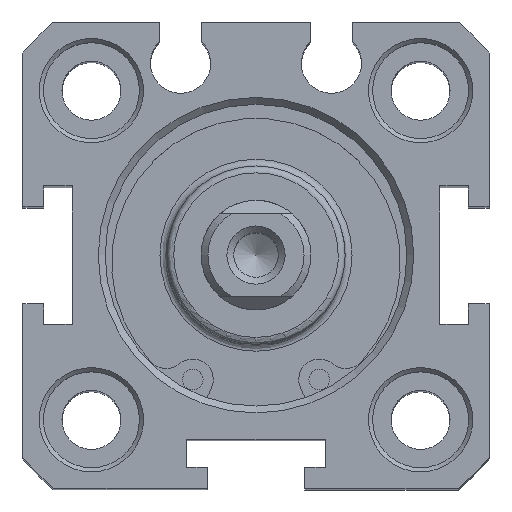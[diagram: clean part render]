
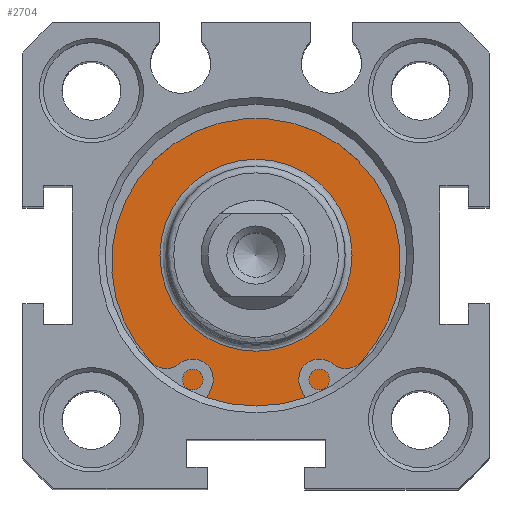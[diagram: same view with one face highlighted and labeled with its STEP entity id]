
A CAD part, top view. The second image highlights one B-rep face of the part: STEP entity #2704.
In plain terms, the highlighted planar face has unit normal (0, 0, 1).
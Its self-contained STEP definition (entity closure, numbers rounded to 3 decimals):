
#2653=CARTESIAN_POINT('',(0.24,8.683,66.8));
#2654=VERTEX_POINT('',#2653);
#2655=CARTESIAN_POINT('',(0.24,1.683,66.8));
#2656=DIRECTION('',(0.0,0.0,1.0));
#2657=DIRECTION('',(0.0,-1.0,0.0));
#2658=AXIS2_PLACEMENT_3D('',#2655,#2656,#2657);
#2659=CIRCLE('',#2658,7.);
#2660=EDGE_CURVE('',#2654,#2654,#2659,.T.);
#2685=CARTESIAN_POINT('',(0.24,10.433,66.8));
#2686=DIRECTION('',(0.0,0.0,1.0));
#2687=DIRECTION('',(1.0,0.0,0.0));
#2688=AXIS2_PLACEMENT_3D('',#2685,#2686,#2687);
#2689=PLANE('',#2688);
#2690=CARTESIAN_POINT('',(0.24,12.683,66.8));
#2691=VERTEX_POINT('',#2690);
#2692=CARTESIAN_POINT('',(0.24,1.683,66.8));
#2693=DIRECTION('',(0.0,0.0,-1.0));
#2694=DIRECTION('',(0.0,1.0,0.0));
#2695=AXIS2_PLACEMENT_3D('',#2692,#2693,#2694);
#2696=CIRCLE('',#2695,11.);
#2697=EDGE_CURVE('',#2691,#2691,#2696,.T.);
#2698=ORIENTED_EDGE('',*,*,#2697,.F.);
#2699=EDGE_LOOP('',(#2698));
#2700=FACE_OUTER_BOUND('',#2699,.T.);
#2701=ORIENTED_EDGE('',*,*,#2660,.F.);
#2702=EDGE_LOOP('',(#2701));
#2703=FACE_BOUND('',#2702,.T.);
#2704=ADVANCED_FACE('',(#2700,#2703),#2689,.T.);
